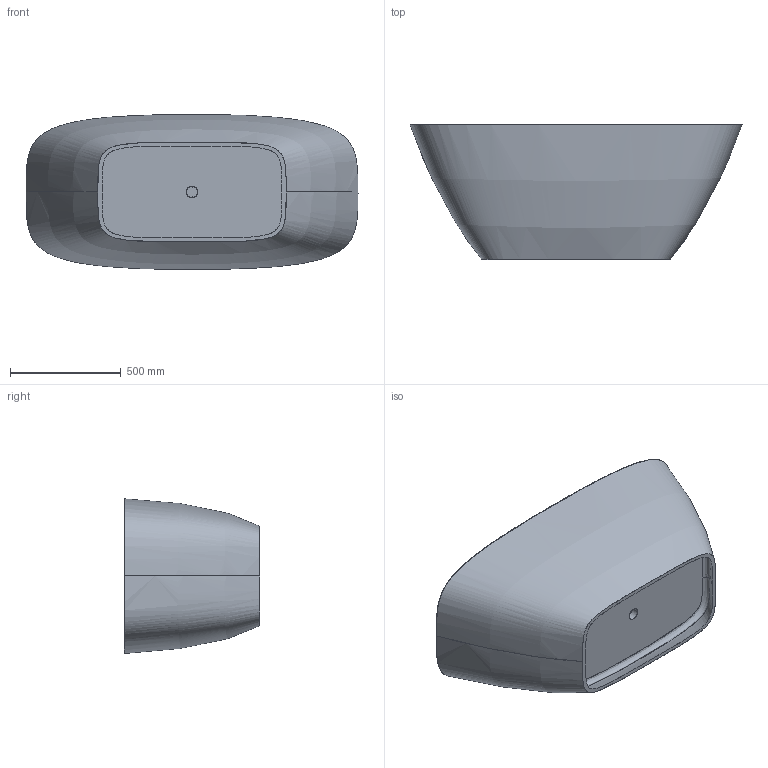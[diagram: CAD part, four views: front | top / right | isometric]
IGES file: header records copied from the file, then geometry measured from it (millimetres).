
Start section: SolidWorks IGES file using analytic representation for surfaces
Global section: file name: D:\Users\M.Szymanski\Desktop\Wanny\LaSenia\03. do przegrania\WP_LaSENIA_70x150.IGS; native system: SolidWorks 2011; preprocessor: SolidWorks 2011; author: M.Szymanski; date: 180522.120020; units: millimetre
Bounding box: 1499.48 x 610 x 699.79 mm (x, y, z)
Surface area: 4867260.8 mm2 (no closed solid volume)
Topology: 0 solids, 0 shells, 54 faces, 1886 edges, 1885 vertices
Faces by surface type: bspline 42, revolution 12
